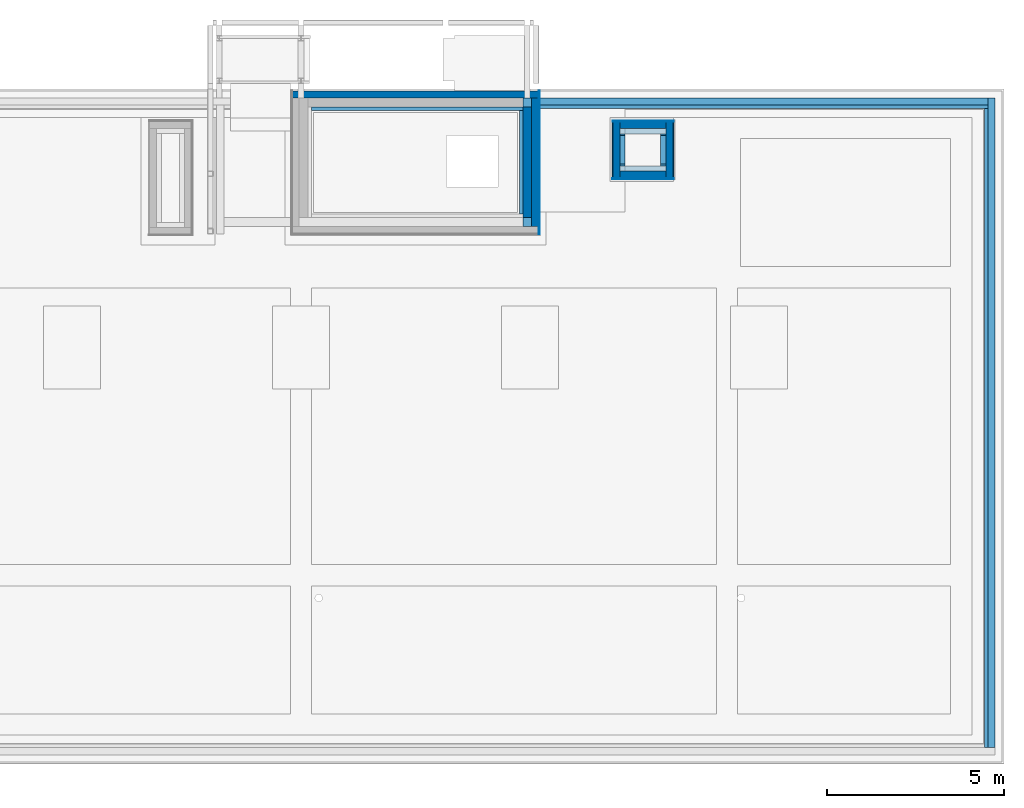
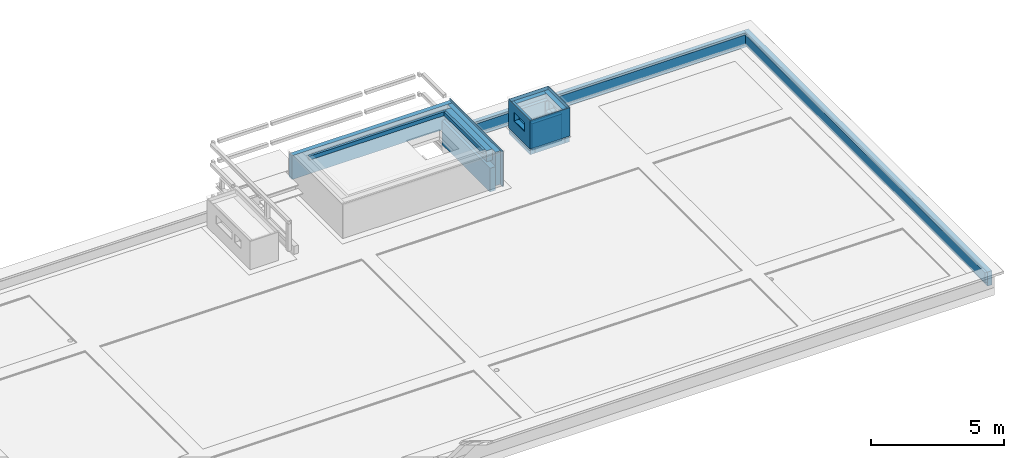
# One storey, part 7 of 8: 23 walls, 6 openings.
"""IFC2X3 building model written with IfcOpenShell, lengths in centimetres."""

from ifc_helpers import new_model, entity, si_unit, converted_unit, derived_unit, direction, frame, frame_2d, origin, place, context, subcontext, project, spatial, polyline, rectangle, extrude, clip, bounded_halfspace, material, layer, layer_set, layer_usage, type_object, element, save


model = new_model("IFC2X3")

# Units and contexts
model_context = context("Model", 3, precision=0.001, world=origin(), true_north=direction((6.12303176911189e-17, 1.0)))
body_context = subcontext(model_context, "Body", "Model", "MODEL_VIEW")
ifc_project = project(units=[si_unit("LENGTHUNIT", "METRE", prefix="CENTI"), si_unit("AREAUNIT", "SQUARE_METRE"), si_unit("VOLUMEUNIT", "CUBIC_METRE"), converted_unit("PLANEANGLEUNIT", "DEGREE", entity("IfcRatioMeasure", 0.0174532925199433), si_unit("PLANEANGLEUNIT", "RADIAN"), dimensions=[0, 0, 0, 0, 0, 0, 0]), si_unit("MASSUNIT", "GRAM", prefix="KILO"), derived_unit("MASSDENSITYUNIT", [(si_unit("MASSUNIT", "GRAM", prefix="KILO"), 1), (si_unit("LENGTHUNIT", "METRE"), -3)]), derived_unit("MOMENTOFINERTIAUNIT", [(si_unit("LENGTHUNIT", "METRE"), 4)]), si_unit("TIMEUNIT", "SECOND"), si_unit("FREQUENCYUNIT", "HERTZ"), si_unit("THERMODYNAMICTEMPERATUREUNIT", "DEGREE_CELSIUS"), derived_unit("THERMALTRANSMITTANCEUNIT", [(si_unit("MASSUNIT", "GRAM", prefix="KILO"), 1), (si_unit("THERMODYNAMICTEMPERATUREUNIT", "KELVIN"), -1), (si_unit("TIMEUNIT", "SECOND"), -3)]), derived_unit("VOLUMETRICFLOWRATEUNIT", [(si_unit("LENGTHUNIT", "METRE"), 3), (si_unit("TIMEUNIT", "SECOND"), -1)]), si_unit("ELECTRICCURRENTUNIT", "AMPERE"), si_unit("ELECTRICVOLTAGEUNIT", "VOLT"), si_unit("POWERUNIT", "WATT"), si_unit("FORCEUNIT", "NEWTON", prefix="KILO"), si_unit("ILLUMINANCEUNIT", "LUX"), si_unit("LUMINOUSFLUXUNIT", "LUMEN"), si_unit("LUMINOUSINTENSITYUNIT", "CANDELA"), derived_unit("USERDEFINED", [(si_unit("MASSUNIT", "GRAM", prefix="KILO"), -1), (si_unit("LENGTHUNIT", "METRE"), -2), (si_unit("TIMEUNIT", "SECOND"), 3), (si_unit("LUMINOUSFLUXUNIT", "LUMEN"), 1)]), derived_unit("LINEARVELOCITYUNIT", [(si_unit("LENGTHUNIT", "METRE"), 1), (si_unit("TIMEUNIT", "SECOND"), -1)]), si_unit("PRESSUREUNIT", "PASCAL"), derived_unit("USERDEFINED", [(si_unit("LENGTHUNIT", "METRE"), -2), (si_unit("MASSUNIT", "GRAM", prefix="KILO"), 1), (si_unit("TIMEUNIT", "SECOND"), -2)]), derived_unit("LINEARFORCEUNIT", [(si_unit("MASSUNIT", "GRAM", prefix="KILO"), 1), (si_unit("LENGTHUNIT", "METRE"), 1), (si_unit("TIMEUNIT", "SECOND"), -2), (si_unit("LENGTHUNIT", "METRE"), -1)]), derived_unit("PLANARFORCEUNIT", [(si_unit("MASSUNIT", "GRAM", prefix="KILO"), 1), (si_unit("LENGTHUNIT", "METRE"), 1), (si_unit("TIMEUNIT", "SECOND"), -2), (si_unit("LENGTHUNIT", "METRE"), -2)])], contexts=[model_context])

# Site, building, storey
site_placement = place(None, origin())
site = spatial("IfcSite", under=ifc_project, at=site_placement, Name="Default", CompositionType="ELEMENT")
building_placement = place(site_placement, origin())
building = spatial("IfcBuilding", under=site, at=building_placement, CompositionType="ELEMENT")
storey_placement = place(building_placement, frame((0.0, 0.0, 970.0)))
storey = spatial("IfcBuildingStorey", under=building, at=storey_placement, Name="Poziom 2K +9,70", CompositionType="ELEMENT", Elevation=970.0)

# Walls
ifc_material_1 = material(Name="_Beton C30/37")
ifc_layer_1 = layer(ifc_material_1, 25.0)
ifc_layer_set_1 = layer_set([ifc_layer_1], Name="Ściana podstawowa:Ściana żelbetowa gr. 25cm")
ifc_layer_usage_1 = layer_usage(ifc_layer_set_1, "AXIS2", "POSITIVE", -12.5)
wall_type_1 = type_object("IfcWallType", Name="Ściana podstawowa:Ściana żelbetowa gr. 25cm", PredefinedType="STANDARD", material=ifc_layer_set_1)
wall_1_placement = place(storey_placement, frame((-341.765119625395, 2105.127452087, 0.0), z_axis=(0.0, 0.0, 1.0), x_axis=(0.0, -1.0, 0.0)))
element("IfcWallStandardCase", 1, at=wall_1_placement, inside=storey, type_object=wall_type_1, material=ifc_layer_usage_1, Name="Ściana podstawowa:Ściana żelbetowa gr. 25cm", ObjectType="Ściana podstawowa:Ściana żelbetowa gr. 25cm", context=body_context, shape_type="SweptSolid", body=[
    extrude(rectangle(XDim=362.000000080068, YDim=24.9999999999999, at=frame_2d((181.000000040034, 3.5527136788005e-15), x_axis=(-1.0, 0.0))), origin(), (0.0, 0.0, 1.0), 109.0),
])
ifc_layer_usage_2 = layer_usage(ifc_layer_set_1, "AXIS2", "POSITIVE", -12.5)
wall_2_placement = place(storey_placement, frame((-341.765111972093, 2080.1274520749, 124.0), z_axis=(0.0, 0.0, 1.0), x_axis=(0.0, -1.0, 0.0)))
element("IfcWallStandardCase", 2, at=wall_2_placement, inside=storey, type_object=wall_type_1, material=ifc_layer_usage_2, Name="Ściana podstawowa:Ściana żelbetowa gr. 25cm", ObjectType="Ściana podstawowa:Ściana żelbetowa gr. 25cm", context=body_context, shape_type="SweptSolid", body=[
    extrude(rectangle(XDim=312.000000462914, YDim=24.9999999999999, at=frame_2d((156.000000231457, 0.0), x_axis=(-1.0, 0.0))), origin(), (0.0, 0.0, 1.0), 49.9999999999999),
])
ifc_layer_2 = layer(ifc_material_1, 20.0)
ifc_layer_set_2 = layer_set([ifc_layer_2], Name="Ściana podstawowa:Ściana żelbetowa gr. 20cm")
ifc_layer_usage_3 = layer_usage(ifc_layer_set_2, "AXIS2", "NEGATIVE", 10.0)
wall_type_2 = type_object("IfcWallType", Name="Ściana podstawowa:Ściana żelbetowa gr. 20cm", PredefinedType="STANDARD", material=ifc_layer_set_2)
wall_3_placement = place(storey_placement, frame((965.734891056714, 2105.12745208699, 0.0), z_axis=(0.0, 0.0, 1.0), x_axis=(0.0, -1.0, 0.0)))
element("IfcWallStandardCase", 3, at=wall_3_placement, inside=storey, type_object=wall_type_2, material=ifc_layer_usage_3, Name="Ściana podstawowa:Ściana żelbetowa gr. 20cm", ObjectType="Ściana podstawowa:Ściana żelbetowa gr. 20cm", context=body_context, shape_type="SweptSolid", body=[
    extrude(rectangle(XDim=1830.0, YDim=20.0, at=frame_2d((915.0, 1.33226762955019e-14), x_axis=(-1.0, 0.0))), origin(), (0.0, 0.0, 1.0), 64.9999999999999),
])
ifc_layer_usage_4 = layer_usage(ifc_layer_set_2, "AXIS2", "POSITIVE", -10.0)
wall_4_placement = place(storey_placement, frame((955.734891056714, 2095.12745208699, 0.0), z_axis=(0.0, 0.0, 1.0), x_axis=(-1.0, 0.0, 0.0)))
element("IfcWallStandardCase", 4, at=wall_4_placement, inside=storey, type_object=wall_type_2, material=ifc_layer_usage_4, Name="Ściana podstawowa:Ściana żelbetowa gr. 20cm", ObjectType="Ściana podstawowa:Ściana żelbetowa gr. 20cm", context=body_context, shape_type="SweptSolid", body=[
    extrude(rectangle(XDim=1285.00001068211, YDim=19.9999999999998, at=frame_2d((642.500005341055, -7.99360577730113e-15), x_axis=(-1.0, 0.0))), origin(), (0.0, 0.0, 1.0), 64.9999999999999),
])
ifc_material_2 = material(Name="Pustak ceramiczny, klasa 15")
ifc_layer_3 = layer(ifc_material_2, 15.0)
ifc_layer_set_3 = layer_set([ifc_layer_3], Name="Ściana podstawowa:Ściana murowana gr. 15cm")
ifc_layer_usage_5 = layer_usage(ifc_layer_set_3, "AXIS2", "NEGATIVE", 7.5)
wall_type_3 = type_object("IfcWallType", Name="Ściana podstawowa:Ściana murowana gr. 15cm", PredefinedType="STANDARD", material=ifc_layer_set_3)
wall_5_placement = place(storey_placement, frame((-80.7651144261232, 2011.62751078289, 0.0)))
element("IfcWallStandardCase", 5, at=wall_5_placement, inside=storey, type_object=wall_type_3, material=ifc_layer_usage_5, Name="Ściana podstawowa:Ściana murowana gr. 15cm", ObjectType="Ściana podstawowa:Ściana murowana gr. 15cm", context=body_context, shape_type="SweptSolid", body=[
    extrude(rectangle(XDim=129.999993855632, YDim=15.0000000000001, at=frame_2d((64.9999969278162, 2.8421709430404e-14), x_axis=(-1.0, 0.0))), origin(), (0.0, 0.0, 1.0), 123.0),
])

# Wall, opening
ifc_layer_usage_6 = layer_usage(ifc_layer_set_3, "AXIS2", "NEGATIVE", 7.5)
wall_6_placement = place(storey_placement, frame((41.7348794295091, 2004.12751078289, 0.0), z_axis=(0.0, 0.0, 1.0), x_axis=(0.0, -1.0, 0.0)))
wall_6 = element("IfcWallStandardCase", 6, at=wall_6_placement, inside=storey, type_object=wall_type_3, material=ifc_layer_usage_6, Name="Ściana podstawowa:Ściana murowana gr. 15cm", ObjectType="Ściana podstawowa:Ściana murowana gr. 15cm", context=body_context, shape_type="SweptSolid", body=[
    extrude(rectangle(XDim=90.0017225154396, YDim=15.0, at=frame_2d((45.0008612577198, 0.0), x_axis=(-1.0, 0.0))), origin(), (0.0, 0.0, 1.0), 123.0),
])
opening_1_placement = place(wall_6_placement, origin())
element("IfcOpeningElement", 7, at=opening_1_placement, cuts=wall_6, Name="Ściana podstawowa:Ściana murowana gr. 15cm", ObjectType="Opening", context=body_context, shape_type="SweptSolid", body=[
    extrude(rectangle(XDim=40.0, YDim=79.9999999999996, at=frame_2d((4.33431068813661e-13, 0.0), x_axis=(0.0, 1.0))), frame((45.0017225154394, -159.9, 103.0), z_axis=(0.0, 1.0, 0.0), x_axis=(1.0, 0.0, 0.0)), (0.0, 0.0, 1.0), 304.8),
])

# Wall
ifc_layer_usage_7 = layer_usage(ifc_layer_set_3, "AXIS2", "NEGATIVE", 7.5)
wall_7_placement = place(storey_placement, frame((49.234879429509, 1906.62578826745, 0.0), z_axis=(0.0, 0.0, 1.0), x_axis=(-1.0, 0.0, 0.0)))
element("IfcWallStandardCase", 8, at=wall_7_placement, inside=storey, type_object=wall_type_3, material=ifc_layer_usage_7, Name="Ściana podstawowa:Ściana murowana gr. 15cm", ObjectType="Ściana podstawowa:Ściana murowana gr. 15cm", context=body_context, shape_type="SweptSolid", body=[
    extrude(rectangle(XDim=129.999993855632, YDim=15.0000000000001, at=frame_2d((64.9999969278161, 1.37667655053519e-14), x_axis=(-1.0, 0.0))), origin(), (0.0, 0.0, 1.0), 123.0),
])

# Wall, opening
ifc_layer_usage_8 = layer_usage(ifc_layer_set_3, "AXIS2", "NEGATIVE", 7.5)
wall_8_placement = place(storey_placement, frame((-73.2651144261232, 1914.12578826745, 0.0), z_axis=(0.0, 0.0, 1.0), x_axis=(0.0, 1.0, 0.0)))
wall_8 = element("IfcWallStandardCase", 9, at=wall_8_placement, inside=storey, type_object=wall_type_3, material=ifc_layer_usage_8, Name="Ściana podstawowa:Ściana murowana gr. 15cm", ObjectType="Ściana podstawowa:Ściana murowana gr. 15cm", context=body_context, shape_type="SweptSolid", body=[
    extrude(rectangle(XDim=90.0017225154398, YDim=15.0, at=frame_2d((45.0008612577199, 0.0), x_axis=(-1.0, 0.0))), origin(), (0.0, 0.0, 1.0), 123.0),
])
opening_2_placement = place(wall_8_placement, origin())
element("IfcOpeningElement", 10, at=opening_2_placement, cuts=wall_8, Name="Ściana podstawowa:Ściana murowana gr. 15cm", ObjectType="Opening", context=body_context, shape_type="SweptSolid", body=[
    extrude(rectangle(XDim=40.0, YDim=80.0000000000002, at=frame_2d((-3.26849658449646e-13, 0.0), x_axis=(0.0, 1.0))), frame((45.0, -159.9, 103.0), z_axis=(0.0, 1.0, 0.0), x_axis=(1.0, 0.0, 0.0)), (0.0, 0.0, 1.0), 304.8),
])

# Wall
ifc_material_3 = material(Name="Wełna skalna")
ifc_layer_4 = layer(ifc_material_3, 20.0)
ifc_layer_set_4 = layer_set([ifc_layer_4], Name="Ściana podstawowa:Wełna mineralna gr. 20cm")
ifc_layer_usage_9 = layer_usage(ifc_layer_set_4, "AXIS2", "POSITIVE", -10.0)
wall_type_4 = type_object("IfcWallType", Name="Ściana podstawowa:Wełna mineralna gr. 20cm", PredefinedType="STANDARD", material=ifc_layer_set_4)
wall_9_placement = place(storey_placement, frame((-319.265111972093, 2105.12745205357, 20.0), z_axis=(0.0, 0.0, 1.0), x_axis=(0.0, -1.0, 0.0)))
element("IfcWallStandardCase", 11, at=wall_9_placement, inside=storey, type_object=wall_type_4, material=ifc_layer_usage_9, Name="Ściana podstawowa:Wełna mineralna gr. 20cm", ObjectType="Ściana podstawowa:Wełna mineralna gr. 20cm", context=body_context, shape_type="Clipping", body=[
    clip(clip(extrude(rectangle(XDim=362.000001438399, YDim=20.0, at=frame_2d((181.000000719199, 0.0), x_axis=(-1.0, 0.0))), origin(), (0.0, 0.0, 1.0), 154.0), bounded_halfspace(frame((20.0, -10.000007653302, 45.0), z_axis=(1.0, 0.0, 0.0), x_axis=(0.0, 1.0, 0.0)), True, frame((20.0, -10.000007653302, 45.0), z_axis=(1.0, 0.0, 0.0), x_axis=(0.0, 1.0, 0.0)), polyline([(0.0, 0.0), (7.65330193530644e-06, -45.0), (20.0000076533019, -45.0), (20.0000076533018, 0.0), (0.0, 0.0)]))), bounded_halfspace(frame((20.0, 10.0, 45.0)), True, frame((20.0, 10.0, 45.0)), polyline([(0.0, 0.0), (-20.0, 0.0), (-20.0, -20.0), (0.0, -20.0000076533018), (0.0, 0.0)]))),
])

# Wall, opening
ifc_layer_usage_10 = layer_usage(ifc_layer_set_4, "AXIS2", "POSITIVE", -10.0)
wall_10_placement = place(storey_placement, frame((-90.7651144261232, 1879.12578826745, 0.0), z_axis=(0.0, 0.0, 1.0), x_axis=(0.0, 1.0, 0.0)))
wall_10 = element("IfcWallStandardCase", 12, at=wall_10_placement, inside=storey, type_object=wall_type_4, material=ifc_layer_usage_10, Name="Ściana podstawowa:Wełna mineralna gr. 20cm", ObjectType="Ściana podstawowa:Wełna mineralna gr. 20cm", context=body_context, shape_type="SweptSolid", body=[
    extrude(rectangle(XDim=160.001722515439, YDim=20.0, at=frame_2d((80.0008612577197, 0.0), x_axis=(-1.0, 0.0))), origin(), (0.0, 0.0, 1.0), 143.0),
])
opening_3_placement = place(wall_10_placement, origin())
element("IfcOpeningElement", 13, at=opening_3_placement, cuts=wall_10, Name="Ściana podstawowa:Wełna mineralna gr. 20cm", ObjectType="Opening", context=body_context, shape_type="SweptSolid", body=[
    extrude(rectangle(XDim=40.0000000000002, YDim=79.9999999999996, at=frame_2d((1.08357767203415e-13, -2.16715534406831e-13), x_axis=(1.0, 0.0))), frame((80.0, 10.0, 103.0), z_axis=(0.0, -1.0, 0.0), x_axis=(0.0, 0.0, -1.0)), (0.0, 0.0, 1.0), 20.0),
])

# Wall
ifc_layer_usage_11 = layer_usage(ifc_layer_set_4, "AXIS2", "POSITIVE", -10.0)
wall_11_placement = place(storey_placement, frame((-80.765114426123, 2029.12751078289, 0.0)))
element("IfcWallStandardCase", 14, at=wall_11_placement, inside=storey, type_object=wall_type_4, material=ifc_layer_usage_11, Name="Ściana podstawowa:Wełna mineralna gr. 20cm", ObjectType="Ściana podstawowa:Wełna mineralna gr. 20cm", context=body_context, shape_type="SweptSolid", body=[
    extrude(rectangle(XDim=129.999993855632, YDim=19.9999999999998, at=frame_2d((64.9999969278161, 0.0), x_axis=(-1.0, 0.0))), origin(), (0.0, 0.0, 1.0), 143.0),
])

# Wall, opening
ifc_layer_usage_12 = layer_usage(ifc_layer_set_4, "AXIS2", "POSITIVE", -10.0)
wall_12_placement = place(storey_placement, frame((59.2348794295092, 2039.12751078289, 0.0), z_axis=(0.0, 0.0, 1.0), x_axis=(0.0, -1.0, 0.0)))
wall_12 = element("IfcWallStandardCase", 15, at=wall_12_placement, inside=storey, type_object=wall_type_4, material=ifc_layer_usage_12, Name="Ściana podstawowa:Wełna mineralna gr. 20cm", ObjectType="Ściana podstawowa:Wełna mineralna gr. 20cm", context=body_context, shape_type="SweptSolid", body=[
    extrude(rectangle(XDim=160.001722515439, YDim=20.0, at=frame_2d((80.0008612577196, 0.0), x_axis=(-1.0, 0.0))), origin(), (0.0, 0.0, 1.0), 143.0),
])
opening_4_placement = place(wall_12_placement, origin())
element("IfcOpeningElement", 16, at=opening_4_placement, cuts=wall_12, Name="Ściana podstawowa:Wełna mineralna gr. 20cm", ObjectType="Opening", context=body_context, shape_type="SweptSolid", body=[
    extrude(rectangle(XDim=40.0000000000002, YDim=79.9999999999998, at=frame_2d((1.08357767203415e-13, -1.06581410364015e-13), x_axis=(1.0, 0.0))), frame((80.0017225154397, 10.0, 103.0), z_axis=(0.0, -1.0, 0.0), x_axis=(0.0, 0.0, -1.0)), (0.0, 0.0, 1.0), 20.0),
])

# Walls
ifc_layer_usage_13 = layer_usage(ifc_layer_set_4, "AXIS2", "POSITIVE", -10.0)
wall_13_placement = place(storey_placement, frame((49.234879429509, 1889.12578826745, 0.0), z_axis=(0.0, 0.0, 1.0), x_axis=(-1.0, 0.0, 0.0)))
element("IfcWallStandardCase", 17, at=wall_13_placement, inside=storey, type_object=wall_type_4, material=ifc_layer_usage_13, Name="Ściana podstawowa:Wełna mineralna gr. 20cm", ObjectType="Ściana podstawowa:Wełna mineralna gr. 20cm", context=body_context, shape_type="SweptSolid", body=[
    extrude(rectangle(XDim=129.999993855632, YDim=19.9999999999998, at=frame_2d((64.9999969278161, 0.0), x_axis=(-1.0, 0.0))), origin(), (0.0, 0.0, 1.0), 143.0),
])
ifc_layer_usage_14 = layer_usage(ifc_layer_set_4, "AXIS2", "NEGATIVE", 10.0)
wall_14_placement = place(storey_placement, frame((-1004.26510899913, 2115.12745209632, 65.0)))
element("IfcWallStandardCase", 18, at=wall_14_placement, inside=storey, type_object=wall_type_4, material=ifc_layer_usage_14, Name="Ściana podstawowa:Wełna mineralna gr. 20cm", ObjectType="Ściana podstawowa:Wełna mineralna gr. 20cm", context=body_context, shape_type="SweptSolid", body=[
    extrude(rectangle(XDim=694.999997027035, YDim=19.9999999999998, at=frame_2d((347.499998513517, 0.0), x_axis=(-1.0, 0.0))), origin(), (0.0, 0.0, 1.0), 109.0),
])
ifc_material_4 = material(Name="Polistyren XPS")
ifc_layer_5 = layer(ifc_material_4, 10.0)
ifc_layer_set_5 = layer_set([ifc_layer_5], Name="Ściana podstawowa:Styropian XPS gr. 10cm")
ifc_layer_usage_15 = layer_usage(ifc_layer_set_5, "AXIS2", "POSITIVE", -5.0)
wall_type_5 = type_object("IfcWallType", Name="Ściana podstawowa:Styropian XPS gr. 10cm", PredefinedType="STANDARD", material=ifc_layer_set_5)
wall_15_placement = place(storey_placement, frame((950.734902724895, 275.12765760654, 20.0), z_axis=(0.0, 0.0, 1.0), x_axis=(0.0, 1.0, 0.0)))
element("IfcWallStandardCase", 19, at=wall_15_placement, inside=storey, type_object=wall_type_5, material=ifc_layer_usage_15, Name="Ściana podstawowa:Styropian XPS gr. 10cm", ObjectType="Ściana podstawowa:Styropian XPS gr. 10cm", context=body_context, shape_type="SweptSolid", body=[
    extrude(rectangle(XDim=1799.99979448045, YDim=9.99999999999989, at=frame_2d((899.999897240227, -7.99360577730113e-15), x_axis=(-1.0, 0.0))), origin(), (0.0, 0.0, 1.0), 45.0000000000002),
])
ifc_layer_usage_16 = layer_usage(ifc_layer_set_5, "AXIS2", "POSITIVE", -5.0)
wall_16_placement = place(storey_placement, frame((955.734894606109, 2080.12745208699, 20.0), z_axis=(0.0, 0.0, 1.0), x_axis=(-1.0, 0.0, 0.0)))
element("IfcWallStandardCase", 20, at=wall_16_placement, inside=storey, type_object=wall_type_5, material=ifc_layer_usage_16, Name="Ściana podstawowa:Styropian XPS gr. 10cm", ObjectType="Ściana podstawowa:Styropian XPS gr. 10cm", context=body_context, shape_type="Clipping", body=[
    clip(extrude(rectangle(XDim=1263.0000065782, YDim=10.0000000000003, at=frame_2d((631.500003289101, -1.82076576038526e-14), x_axis=(-1.0, 0.0))), origin(), (0.0, 0.0, 1.0), 45.0000000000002), bounded_halfspace(frame((1263.0000065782, -5.0, 45.0), z_axis=(-1.0, 0.0, 0.0), x_axis=(0.0, -1.0, 0.0)), True, frame((1263.0000065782, -5.0, 45.0), z_axis=(-1.0, 0.0, 0.0), x_axis=(0.0, -1.0, 0.0)), polyline([(0.0, 0.0), (-10.0, 0.0), (-10.0, -45.0), (0.0, -45.0), (0.0, 0.0)]))),
])
ifc_layer_6 = layer(ifc_material_3, 10.0)
ifc_layer_set_6 = layer_set([ifc_layer_6], Name="Ściana podstawowa:Wełna mineralna gr. 10cm")
ifc_layer_usage_17 = layer_usage(ifc_layer_set_6, "AXIS2", "POSITIVE", -5.0)
wall_type_6 = type_object("IfcWallType", Name="Ściana podstawowa:Wełna mineralna gr. 10cm", PredefinedType="STANDARD", material=ifc_layer_set_6)
wall_17_placement = place(storey_placement, frame((-359.264987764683, 1778.1274520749, 156.0), z_axis=(0.0, 0.0, 1.0), x_axis=(0.0, 1.0, 0.0)))
element("IfcWallStandardCase", 21, at=wall_17_placement, inside=storey, type_object=wall_type_6, material=ifc_layer_usage_17, Name="Ściana podstawowa:Wełna mineralna gr. 10cm", ObjectType="Ściana podstawowa:Wełna mineralna gr. 10cm", context=body_context, shape_type="SweptSolid", body=[
    extrude(rectangle(XDim=292.0, YDim=10.0, at=frame_2d((146.0, -1.59872115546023e-14), x_axis=(-1.0, 0.0))), origin(), (0.0, 0.0, 1.0), 18.0000000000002),
])
ifc_layer_usage_18 = layer_usage(ifc_layer_set_6, "AXIS2", "POSITIVE", -5.0)
wall_18_placement = place(storey_placement, frame((-354.264987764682, 2075.1274520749, 156.0), z_axis=(0.0, 0.0, 1.0), x_axis=(-1.0, 0.0, 0.0)))
element("IfcWallStandardCase", 22, at=wall_18_placement, inside=storey, type_object=wall_type_6, material=ifc_layer_usage_18, Name="Ściana podstawowa:Wełna mineralna gr. 10cm", ObjectType="Ściana podstawowa:Wełna mineralna gr. 10cm", context=body_context, shape_type="SweptSolid", body=[
    extrude(rectangle(XDim=595.0, YDim=10.0000000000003, at=frame_2d((297.5, -1.77635683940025e-14), x_axis=(-1.0, 0.0))), origin(), (0.0, 0.0, 1.0), 18.0000000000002),
])
ifc_material_5 = material(Name="Tynk gipsowy")
ifc_layer_7 = layer(ifc_material_5, 2.0)
ifc_layer_set_7 = layer_set([ifc_layer_7], Name="Ściana podstawowa:Tynk zewnętrzny gr. 2cm")
ifc_layer_usage_19 = layer_usage(ifc_layer_set_7, "AXIS2", "POSITIVE", -1.0)
wall_type_7 = type_object("IfcWallType", Name="Ściana podstawowa:Tynk zewnętrzny gr. 2cm", PredefinedType="STANDARD", material=ifc_layer_set_7)
wall_19_placement = place(storey_placement, frame((-308.265111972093, 2125.12745209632, 20.0), z_axis=(0.0, 0.0, 1.0), x_axis=(0.0, -1.0, 0.0)))
element("IfcWallStandardCase", 23, at=wall_19_placement, inside=storey, type_object=wall_type_7, material=ifc_layer_usage_19, Name="Ściana podstawowa:Tynk zewnętrzny gr. 2cm", ObjectType="Ściana podstawowa:Tynk zewnętrzny gr. 2cm", context=body_context, shape_type="Clipping", body=[
    clip(clip(extrude(rectangle(XDim=403.000001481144, YDim=1.99999999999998, at=frame_2d((201.500000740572, 0.0), x_axis=(-1.0, 0.0))), origin(), (0.0, 0.0, 1.0), 164.0), bounded_halfspace(frame((50.0, 1.0, 45.0), z_axis=(1.0, 0.0, 0.0), x_axis=(0.0, 0.0, 1.0)), True, frame((50.0, 1.0, 45.0), z_axis=(1.0, 0.0, 0.0), x_axis=(0.0, 0.0, 1.0)), polyline([(0.0, 0.0), (10.0, 0.0), (10.0, 2.0), (0.0, 2.0), (0.0, 0.0)]))), bounded_halfspace(frame((40.0, -1.0, 0.0), z_axis=(1.0, 0.0, 0.0), x_axis=(0.0, 1.0, 0.0)), True, frame((40.0, -1.0, 0.0), z_axis=(1.0, 0.0, 0.0), x_axis=(0.0, 1.0, 0.0)), polyline([(0.0, 0.0), (2.0, 0.0), (2.0, 45.0), (0.0, 45.0), (0.0, 0.0)]))),
])

# Wall, opening
ifc_layer_usage_20 = layer_usage(ifc_layer_set_7, "AXIS2", "POSITIVE", -1.0)
wall_20_placement = place(storey_placement, frame((70.2348794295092, 2039.12751078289, 28.0), z_axis=(0.0, 0.0, 1.0), x_axis=(0.0, -1.0, 0.0)))
wall_20 = element("IfcWallStandardCase", 24, at=wall_20_placement, inside=storey, type_object=wall_type_7, material=ifc_layer_usage_20, Name="Ściana podstawowa:Tynk zewnętrzny gr. 2cm", ObjectType="Ściana podstawowa:Tynk zewnętrzny gr. 2cm", context=body_context, shape_type="SweptSolid", body=[
    extrude(rectangle(XDim=160.001722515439, YDim=2.00000000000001, at=frame_2d((80.0008612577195, 3.44169137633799e-15), x_axis=(-1.0, 0.0))), origin(), (0.0, 0.0, 1.0), 130.000211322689),
])
opening_5_placement = place(wall_20_placement, origin())
element("IfcOpeningElement", 25, at=opening_5_placement, cuts=wall_20, Name="Ściana podstawowa:Tynk zewnętrzny gr. 2cm", ObjectType="Opening", context=body_context, shape_type="SweptSolid", body=[
    extrude(rectangle(XDim=40.0000000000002, YDim=79.9999999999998, at=frame_2d((1.06581410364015e-13, 1.08357767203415e-13), x_axis=(0.0, 1.0))), frame((80.0017225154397, 1.0, 75.0), z_axis=(0.0, -1.0, 0.0), x_axis=(-1.0, 0.0, 0.0)), (0.0, 0.0, 1.0), 2.0),
])

# Wall
ifc_layer_usage_21 = layer_usage(ifc_layer_set_7, "AXIS2", "NEGATIVE", 1.0)
wall_21_placement = place(storey_placement, frame((-102.765114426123, 1878.12578826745, 28.0)))
element("IfcWallStandardCase", 26, at=wall_21_placement, inside=storey, type_object=wall_type_7, material=ifc_layer_usage_21, Name="Ściana podstawowa:Tynk zewnętrzny gr. 2cm", ObjectType="Ściana podstawowa:Tynk zewnętrzny gr. 2cm", context=body_context, shape_type="SweptSolid", body=[
    extrude(rectangle(XDim=173.999993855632, YDim=1.99999999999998, at=frame_2d((86.9999969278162, 2.55351295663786e-15), x_axis=(-1.0, 0.0))), origin(), (0.0, 0.0, 1.0), 130.000211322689),
])

# Wall, opening
ifc_layer_usage_22 = layer_usage(ifc_layer_set_7, "AXIS2", "NEGATIVE", 1.0)
wall_22_placement = place(storey_placement, frame((-101.765114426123, 2041.12751078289, 28.0), z_axis=(0.0, 0.0, 1.0), x_axis=(0.0, -1.0, 0.0)))
wall_22 = element("IfcWallStandardCase", 27, at=wall_22_placement, inside=storey, type_object=wall_type_7, material=ifc_layer_usage_22, Name="Ściana podstawowa:Tynk zewnętrzny gr. 2cm", ObjectType="Ściana podstawowa:Tynk zewnętrzny gr. 2cm", context=body_context, shape_type="SweptSolid", body=[
    extrude(rectangle(XDim=162.001722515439, YDim=2.00000000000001, at=frame_2d((81.0008612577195, 3.77475828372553e-15), x_axis=(-1.0, 0.0))), origin(), (0.0, 0.0, 1.0), 130.000211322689),
])
opening_6_placement = place(wall_22_placement, origin())
element("IfcOpeningElement", 28, at=opening_6_placement, cuts=wall_22, Name="Ściana podstawowa:Tynk zewnętrzny gr. 2cm", ObjectType="Opening", context=body_context, shape_type="SweptSolid", body=[
    extrude(rectangle(XDim=40.0000000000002, YDim=79.9999999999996, at=frame_2d((2.16715534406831e-13, -1.08357767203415e-13), x_axis=(0.0, 1.0))), frame((82.0017225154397, 1.0, 75.0), z_axis=(0.0, -1.0, 0.0), x_axis=(1.0, 0.0, 0.0)), (0.0, 0.0, 1.0), 2.0),
])

# Wall
ifc_layer_usage_23 = layer_usage(ifc_layer_set_7, "AXIS2", "POSITIVE", -1.0)
wall_23_placement = place(storey_placement, frame((-100.765114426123, 2040.12751078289, 28.0)))
element("IfcWallStandardCase", 29, at=wall_23_placement, inside=storey, type_object=wall_type_7, material=ifc_layer_usage_23, Name="Ściana podstawowa:Tynk zewnętrzny gr. 2cm", ObjectType="Ściana podstawowa:Tynk zewnętrzny gr. 2cm", context=body_context, shape_type="SweptSolid", body=[
    extrude(rectangle(XDim=171.999993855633, YDim=2.00000000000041, at=frame_2d((85.9999969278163, 6.99440505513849e-14), x_axis=(-1.0, 0.0))), origin(), (0.0, 0.0, 1.0), 130.000211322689),
])

save(model, "model.ifc")
